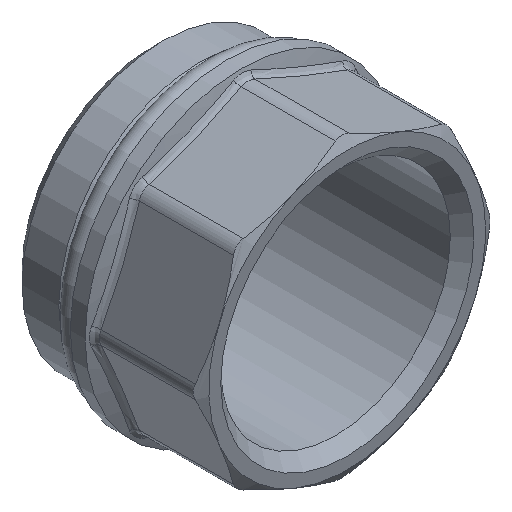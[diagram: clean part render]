
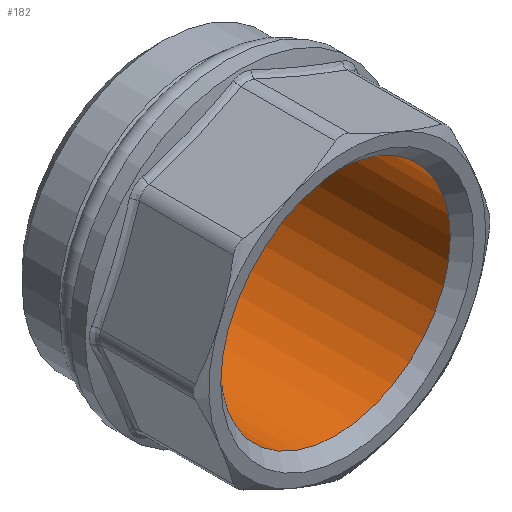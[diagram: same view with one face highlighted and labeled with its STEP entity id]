
A CAD part, isometric view. The second image highlights one B-rep face of the part: STEP entity #182.
In plain terms, the highlighted cylindrical face has radius 19.477 mm (diameter 38.953 mm), a full revolution.
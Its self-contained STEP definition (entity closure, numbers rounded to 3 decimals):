
#182=ADVANCED_FACE('',(#309,#311),#313,.F.);
#309=FACE_OUTER_BOUND('',#310,.T.);
#310=EDGE_LOOP('',(#1563));
#311=FACE_OUTER_BOUND('',#312,.T.);
#312=EDGE_LOOP('',(#1564));
#313=CYLINDRICAL_SURFACE('',#314,19.476);
#314=AXIS2_PLACEMENT_3D('',#315,#316,#317);
#315=CARTESIAN_POINT('',(0.,16.3,0.));
#316=DIRECTION('',(0.,-1.,0.));
#317=DIRECTION('',(1.,0.,0.));
#1563=ORIENTED_EDGE('',*,*,#1767,.F.);
#1564=ORIENTED_EDGE('',*,*,#1768,.F.);
#1767=EDGE_CURVE('',#1876,#1876,#1877,.T.);
#1768=EDGE_CURVE('',#1878,#1878,#1879,.F.);
#1876=VERTEX_POINT('',#2065);
#1877=CIRCLE('',#2066,19.476);
#1878=VERTEX_POINT('',#2070);
#1879=CIRCLE('',#2071,19.476);
#2065=CARTESIAN_POINT('',(19.476,14.8,0.));
#2066=AXIS2_PLACEMENT_3D('',#2067,#2068,#2069);
#2067=CARTESIAN_POINT('',(0.,14.8,0.));
#2068=DIRECTION('',(0.,-1.,0.));
#2069=DIRECTION('',(1.,0.,0.));
#2070=CARTESIAN_POINT('',(19.476,-16.,0.));
#2071=AXIS2_PLACEMENT_3D('',#2072,#2073,#2074);
#2072=CARTESIAN_POINT('',(0.,-16.,0.));
#2073=DIRECTION('',(0.,-1.,0.));
#2074=DIRECTION('',(1.,0.,0.));
